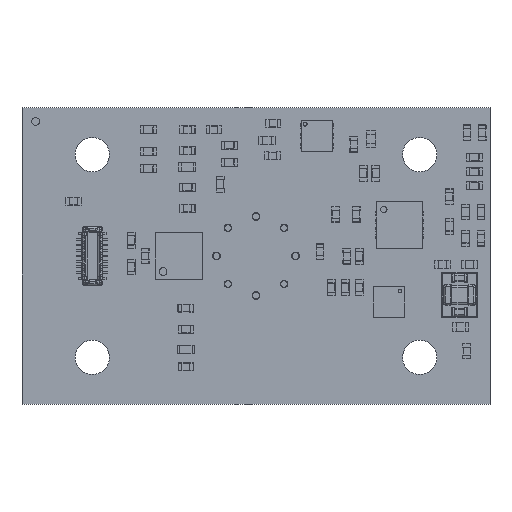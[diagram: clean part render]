
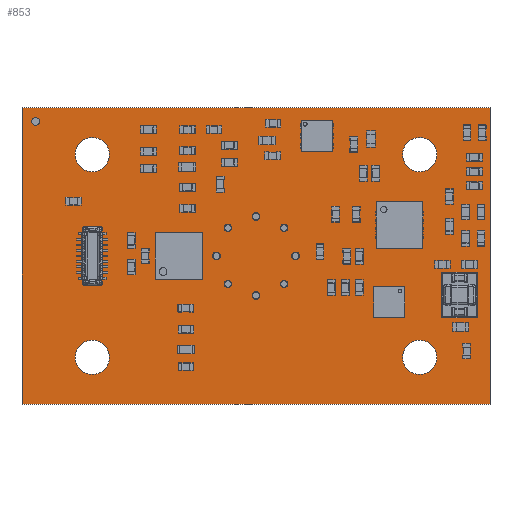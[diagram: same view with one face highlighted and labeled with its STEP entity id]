
A CAD part, top view. The second image highlights one B-rep face of the part: STEP entity #853.
In plain terms, the highlighted planar face has unit normal (0, 0, 1).
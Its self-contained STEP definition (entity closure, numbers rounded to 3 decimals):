
#292 = VERTEX_POINT('',#293);
#293 = CARTESIAN_POINT('',(-15.,-9.5,1.85));
#299 = EDGE_CURVE('',#292,#300,#302,.T.);
#300 = VERTEX_POINT('',#301);
#301 = CARTESIAN_POINT('',(15.,-9.5,1.85));
#302 = LINE('',#303,#304);
#303 = CARTESIAN_POINT('',(-15.,-9.5,1.85));
#304 = VECTOR('',#305,1.);
#305 = DIRECTION('',(1.,0.,0.));
#330 = EDGE_CURVE('',#300,#331,#333,.T.);
#331 = VERTEX_POINT('',#332);
#332 = CARTESIAN_POINT('',(15.,9.5,1.85));
#333 = LINE('',#334,#335);
#334 = CARTESIAN_POINT('',(15.,-9.5,1.85));
#335 = VECTOR('',#336,1.);
#336 = DIRECTION('',(0.,1.,0.));
#361 = EDGE_CURVE('',#331,#362,#364,.T.);
#362 = VERTEX_POINT('',#363);
#363 = CARTESIAN_POINT('',(-15.,9.5,1.85));
#364 = LINE('',#365,#366);
#365 = CARTESIAN_POINT('',(15.,9.5,1.85));
#366 = VECTOR('',#367,1.);
#367 = DIRECTION('',(-1.,0.,0.));
#392 = EDGE_CURVE('',#362,#292,#393,.T.);
#393 = LINE('',#394,#395);
#394 = CARTESIAN_POINT('',(-15.,9.5,1.85));
#395 = VECTOR('',#396,1.);
#396 = DIRECTION('',(0.,-1.,0.));
#416 = VERTEX_POINT('',#417);
#417 = CARTESIAN_POINT('',(-9.4,-6.5,1.85));
#423 = EDGE_CURVE('',#416,#416,#424,.T.);
#424 = CIRCLE('',#425,1.1);
#425 = AXIS2_PLACEMENT_3D('',#426,#427,#428);
#426 = CARTESIAN_POINT('',(-10.5,-6.5,1.85));
#427 = DIRECTION('',(0.,0.,1.));
#428 = DIRECTION('',(1.,0.,0.));
#449 = VERTEX_POINT('',#450);
#450 = CARTESIAN_POINT('',(-1.546,-1.796,1.85));
#456 = EDGE_CURVE('',#449,#449,#457,.T.);
#457 = CIRCLE('',#458,0.25);
#458 = AXIS2_PLACEMENT_3D('',#459,#460,#461);
#459 = CARTESIAN_POINT('',(-1.796,-1.796,1.85));
#460 = DIRECTION('',(0.,0.,1.));
#461 = DIRECTION('',(1.,0.,0.));
#482 = VERTEX_POINT('',#483);
#483 = CARTESIAN_POINT('',(-2.29,0.,1.85));
#489 = EDGE_CURVE('',#482,#482,#490,.T.);
#490 = CIRCLE('',#491,0.25);
#491 = AXIS2_PLACEMENT_3D('',#492,#493,#494);
#492 = CARTESIAN_POINT('',(-2.54,0.,1.85));
#493 = DIRECTION('',(0.,0.,1.));
#494 = DIRECTION('',(1.,0.,0.));
#515 = VERTEX_POINT('',#516);
#516 = CARTESIAN_POINT('',(-9.4,6.5,1.85));
#522 = EDGE_CURVE('',#515,#515,#523,.T.);
#523 = CIRCLE('',#524,1.1);
#524 = AXIS2_PLACEMENT_3D('',#525,#526,#527);
#525 = CARTESIAN_POINT('',(-10.5,6.5,1.85));
#526 = DIRECTION('',(0.,0.,1.));
#527 = DIRECTION('',(1.,0.,0.));
#548 = VERTEX_POINT('',#549);
#549 = CARTESIAN_POINT('',(-1.546,1.796,1.85));
#555 = EDGE_CURVE('',#548,#548,#556,.T.);
#556 = CIRCLE('',#557,0.25);
#557 = AXIS2_PLACEMENT_3D('',#558,#559,#560);
#558 = CARTESIAN_POINT('',(-1.796,1.796,1.85));
#559 = DIRECTION('',(0.,0.,1.));
#560 = DIRECTION('',(1.,0.,0.));
#581 = VERTEX_POINT('',#582);
#582 = CARTESIAN_POINT('',(0.25,2.54,1.85));
#588 = EDGE_CURVE('',#581,#581,#589,.T.);
#589 = CIRCLE('',#590,0.25);
#590 = AXIS2_PLACEMENT_3D('',#591,#592,#593);
#591 = CARTESIAN_POINT('',(0.,2.54,1.85));
#592 = DIRECTION('',(0.,0.,1.));
#593 = DIRECTION('',(1.,0.,0.));
#614 = VERTEX_POINT('',#615);
#615 = CARTESIAN_POINT('',(0.25,-2.54,1.85));
#621 = EDGE_CURVE('',#614,#614,#622,.T.);
#622 = CIRCLE('',#623,0.25);
#623 = AXIS2_PLACEMENT_3D('',#624,#625,#626);
#624 = CARTESIAN_POINT('',(0.,-2.54,1.85));
#625 = DIRECTION('',(0.,0.,1.));
#626 = DIRECTION('',(1.,0.,0.));
#647 = VERTEX_POINT('',#648);
#648 = CARTESIAN_POINT('',(11.6,-6.5,1.85));
#654 = EDGE_CURVE('',#647,#647,#655,.T.);
#655 = CIRCLE('',#656,1.1);
#656 = AXIS2_PLACEMENT_3D('',#657,#658,#659);
#657 = CARTESIAN_POINT('',(10.5,-6.5,1.85));
#658 = DIRECTION('',(0.,0.,1.));
#659 = DIRECTION('',(1.,0.,0.));
#680 = VERTEX_POINT('',#681);
#681 = CARTESIAN_POINT('',(2.046,-1.796,1.85));
#687 = EDGE_CURVE('',#680,#680,#688,.T.);
#688 = CIRCLE('',#689,0.25);
#689 = AXIS2_PLACEMENT_3D('',#690,#691,#692);
#690 = CARTESIAN_POINT('',(1.796,-1.796,1.85));
#691 = DIRECTION('',(0.,0.,1.));
#692 = DIRECTION('',(1.,0.,0.));
#713 = VERTEX_POINT('',#714);
#714 = CARTESIAN_POINT('',(2.046,1.796,1.85));
#720 = EDGE_CURVE('',#713,#713,#721,.T.);
#721 = CIRCLE('',#722,0.25);
#722 = AXIS2_PLACEMENT_3D('',#723,#724,#725);
#723 = CARTESIAN_POINT('',(1.796,1.796,1.85));
#724 = DIRECTION('',(0.,0.,1.));
#725 = DIRECTION('',(1.,0.,0.));
#746 = VERTEX_POINT('',#747);
#747 = CARTESIAN_POINT('',(2.79,0.,1.85));
#753 = EDGE_CURVE('',#746,#746,#754,.T.);
#754 = CIRCLE('',#755,0.25);
#755 = AXIS2_PLACEMENT_3D('',#756,#757,#758);
#756 = CARTESIAN_POINT('',(2.54,0.,1.85));
#757 = DIRECTION('',(0.,0.,1.));
#758 = DIRECTION('',(1.,0.,0.));
#779 = VERTEX_POINT('',#780);
#780 = CARTESIAN_POINT('',(11.6,6.5,1.85));
#786 = EDGE_CURVE('',#779,#779,#787,.T.);
#787 = CIRCLE('',#788,1.1);
#788 = AXIS2_PLACEMENT_3D('',#789,#790,#791);
#789 = CARTESIAN_POINT('',(10.5,6.5,1.85));
#790 = DIRECTION('',(0.,0.,1.));
#791 = DIRECTION('',(1.,0.,0.));
#853 = ADVANCED_FACE('',(#854,#860,#863,#866,#869,#872,#875,#878,#881,
    #884,#887,#890,#893),#896,.F.);
#854 = FACE_BOUND('',#855,.T.);
#855 = EDGE_LOOP('',(#856,#857,#858,#859));
#856 = ORIENTED_EDGE('',*,*,#299,.T.);
#857 = ORIENTED_EDGE('',*,*,#330,.T.);
#858 = ORIENTED_EDGE('',*,*,#361,.T.);
#859 = ORIENTED_EDGE('',*,*,#392,.T.);
#860 = FACE_BOUND('',#861,.F.);
#861 = EDGE_LOOP('',(#862));
#862 = ORIENTED_EDGE('',*,*,#423,.T.);
#863 = FACE_BOUND('',#864,.F.);
#864 = EDGE_LOOP('',(#865));
#865 = ORIENTED_EDGE('',*,*,#456,.T.);
#866 = FACE_BOUND('',#867,.F.);
#867 = EDGE_LOOP('',(#868));
#868 = ORIENTED_EDGE('',*,*,#489,.T.);
#869 = FACE_BOUND('',#870,.F.);
#870 = EDGE_LOOP('',(#871));
#871 = ORIENTED_EDGE('',*,*,#522,.T.);
#872 = FACE_BOUND('',#873,.F.);
#873 = EDGE_LOOP('',(#874));
#874 = ORIENTED_EDGE('',*,*,#555,.T.);
#875 = FACE_BOUND('',#876,.F.);
#876 = EDGE_LOOP('',(#877));
#877 = ORIENTED_EDGE('',*,*,#588,.T.);
#878 = FACE_BOUND('',#879,.F.);
#879 = EDGE_LOOP('',(#880));
#880 = ORIENTED_EDGE('',*,*,#621,.T.);
#881 = FACE_BOUND('',#882,.F.);
#882 = EDGE_LOOP('',(#883));
#883 = ORIENTED_EDGE('',*,*,#654,.T.);
#884 = FACE_BOUND('',#885,.F.);
#885 = EDGE_LOOP('',(#886));
#886 = ORIENTED_EDGE('',*,*,#687,.T.);
#887 = FACE_BOUND('',#888,.F.);
#888 = EDGE_LOOP('',(#889));
#889 = ORIENTED_EDGE('',*,*,#720,.T.);
#890 = FACE_BOUND('',#891,.F.);
#891 = EDGE_LOOP('',(#892));
#892 = ORIENTED_EDGE('',*,*,#753,.T.);
#893 = FACE_BOUND('',#894,.F.);
#894 = EDGE_LOOP('',(#895));
#895 = ORIENTED_EDGE('',*,*,#786,.T.);
#896 = PLANE('',#897);
#897 = AXIS2_PLACEMENT_3D('',#898,#899,#900);
#898 = CARTESIAN_POINT('',(-15.,-9.5,1.85));
#899 = DIRECTION('',(0.,0.,-1.));
#900 = DIRECTION('',(-1.,0.,0.));
